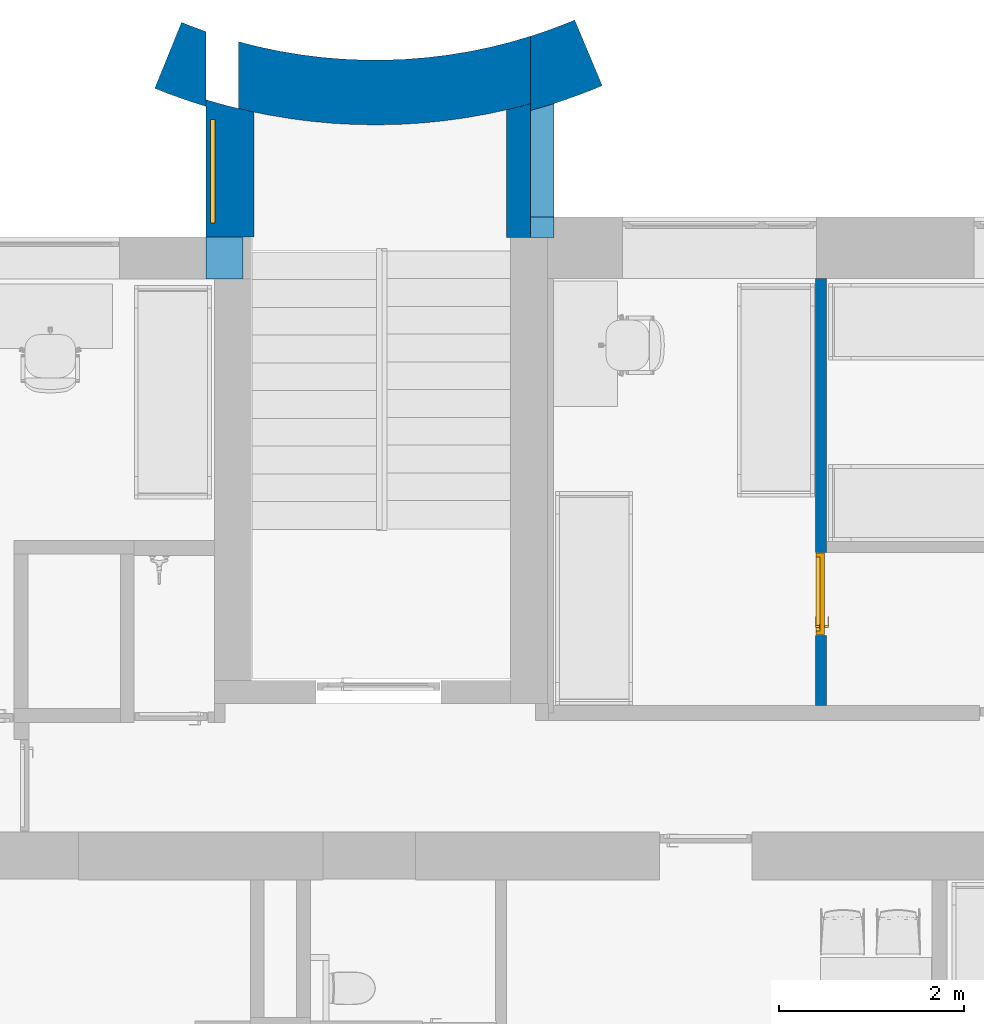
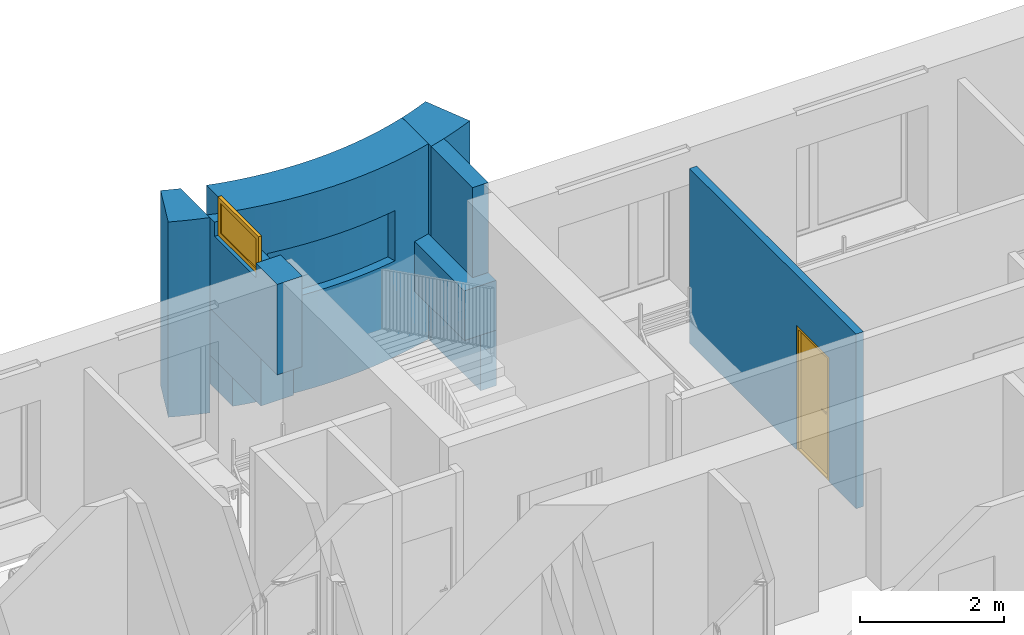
# One storey, part 7 of 48: 9 walls, 1 door, 1 window, 9 openings.
"""IFC2X3 building model written with IfcOpenShell, lengths in millimetres."""

import ifcopenshell
import ifcopenshell.guid

model = None  # the IFC model being written
_history = None  # IfcOwnerHistory: only IFC2X3 demands one
_inside = {}  # id of a spatial element -> (the spatial element, [elements in it])
_under = {}  # id of a project, library or spatial element -> (it, [spatial elements below it])
_declared = {}  # id of a project -> (the project, [libraries it declares])
_typed = {}  # id of a type object -> (the type object, [elements of that type])
_made_of = {}  # id of a material, layer set ... -> (it, [elements and type objects made of it])


def new_model(schema):
    """Start an empty IFC model of exactly this schema.

    Asked for "IFC4X3", IfcOpenShell would pick the latest addendum, in which some entities
    have other attributes; the version numbers below select the first issue.
    IFC2X3 requires an IfcOwnerHistory on every rooted entity: one is made here for all.
    """
    global model, _history
    if schema == "IFC4X3":
        model = ifcopenshell.file(schema_version=(4, 3, 0, 0))
    else:
        model = ifcopenshell.file(schema=schema)
    _inside.clear()
    _under.clear()
    _declared.clear()
    _typed.clear()
    _made_of.clear()
    _history = None
    if model.schema == "IFC2X3":
        org = make("IfcOrganization", Name="unknown")
        user = make(
            "IfcPersonAndOrganization",
            ThePerson=make("IfcPerson", FamilyName="unknown"),
            TheOrganization=org,
        )
        app = make(
            "IfcApplication",
            ApplicationDeveloper=org,
            Version="unknown",
            ApplicationFullName="unknown",
            ApplicationIdentifier="unknown",
        )
        _history = make(
            "IfcOwnerHistory",
            OwningUser=user,
            OwningApplication=app,
            ChangeAction="ADDED",
            CreationDate=0,
        )
    return model


def make(cls, **values):
    """One entity of the class cls with the attributes given. An attribute that is None is left unset."""
    return model.create_entity(
        cls, **{name: value for name, value in values.items() if value is not None}
    )


def entity(cls, *values):
    """Any entity or typed value of the class cls, its attributes in the order of the schema. None: left unset."""
    e = model.create_entity(cls)
    for i, value in enumerate(values):
        if value is not None:
            e[i] = value
    return e


def rooted(cls, **values):
    """An entity with a GlobalId (a new one), such as an element, a storey or a relation."""
    return make(cls, GlobalId=ifcopenshell.guid.new(), OwnerHistory=_history, **values)


def si_unit(unit_type, name, prefix=None):
    """IfcSIUnit, for example si_unit("LENGTHUNIT", "METRE", prefix="MILLI")."""
    return make("IfcSIUnit", UnitType=unit_type, Prefix=prefix, Name=name)


def converted_unit(unit_type, name, factor, base, dimensions=None, offset=None):
    """IfcConversionBasedUnit, such as the inch: factor (a typed value) times the base unit."""
    return make(
        "IfcConversionBasedUnit"
        if offset is None
        else "IfcConversionBasedUnitWithOffset",
        ConversionOffset=offset,
        Dimensions=None
        if dimensions is None
        else entity("IfcDimensionalExponents", *dimensions),
        UnitType=unit_type,
        Name=name,
        ConversionFactor=make(
            "IfcMeasureWithUnit", ValueComponent=factor, UnitComponent=base
        ),
    )


def derived_unit(unit_type, elements):
    """IfcDerivedUnit: a product of units, each with its exponent."""
    return make(
        "IfcDerivedUnit",
        Elements=[
            make("IfcDerivedUnitElement", Unit=unit, Exponent=power)
            for unit, power in elements
        ],
        UnitType=unit_type,
    )


def assignment(units):
    """IfcUnitAssignment: the units of a project."""
    return None if units is None else make("IfcUnitAssignment", Units=units)


def point(xyz):
    """IfcCartesianPoint."""
    return None if xyz is None else make("IfcCartesianPoint", Coordinates=xyz)


def direction(xyz):
    """IfcDirection."""
    return None if xyz is None else make("IfcDirection", DirectionRatios=xyz)


def frame(location, z_axis=None, x_axis=None):
    """IfcAxis2Placement3D, a coordinate frame: its origin and axes. An axis left out is left unset."""
    return make(
        "IfcAxis2Placement3D",
        Location=point(location),
        Axis=direction(z_axis),
        RefDirection=direction(x_axis),
    )


def frame_2d(location, x_axis=None):
    """IfcAxis2Placement2D, a coordinate frame in the plane: its origin and x axis."""
    return make(
        "IfcAxis2Placement2D", Location=point(location), RefDirection=direction(x_axis)
    )


def origin():
    """The frame at (0, 0, 0) with its axes left unset."""
    return frame((0.0, 0.0, 0.0))


def origin_2d_with_axis():
    """The frame at (0, 0) in the plane with the x axis (1, 0) written out."""
    return frame_2d((0.0, 0.0), x_axis=(1.0, 0.0))


def place(relative_to, where):
    """IfcLocalPlacement: puts the frame where relative to a parent placement (None: the world)."""
    return make(
        "IfcLocalPlacement", PlacementRelTo=relative_to, RelativePlacement=where
    )


def context(
    kind, dimensions, precision=None, world=None, true_north=None, identifier=None
):
    """IfcGeometricRepresentationContext, for example the 3D "Model" context."""
    return make(
        "IfcGeometricRepresentationContext",
        ContextIdentifier=identifier,
        ContextType=kind,
        CoordinateSpaceDimension=dimensions,
        Precision=precision,
        WorldCoordinateSystem=world,
        TrueNorth=true_north,
    )


def subcontext(parent, identifier, kind, view, scale=None):
    """IfcGeometricRepresentationSubContext, for example "Body" below "Model"."""
    return make(
        "IfcGeometricRepresentationSubContext",
        ContextIdentifier=identifier,
        ContextType=kind,
        ParentContext=parent,
        TargetScale=scale,
        TargetView=view,
    )


def project(units=None, contexts=None):
    """IfcProject with its units and contexts."""
    return rooted(
        "IfcProject",
        Name="project",
        RepresentationContexts=contexts,
        UnitsInContext=assignment(units),
    )


def spatial(cls, under=None, at=None, **own):
    """A site, building, storey or space (cls), placed at a placement, below another one or the project."""
    s = rooted(cls, ObjectPlacement=at, **own)
    if under is not None:
        _under.setdefault(under.id(), (under, []))[1].append(s)
    return s


def polyline(points):
    """IfcPolyline through the points."""
    return make("IfcPolyline", Points=[point(p) for p in points])


def circle_curve(where, radius):
    """IfcCircle in the frame where."""
    return make("IfcCircle", Position=where, Radius=radius)


def parameter(value):
    """IfcParameterValue: where a trimmed curve begins or ends, as a parameter of its basis curve."""
    return model.create_entity("IfcParameterValue", value)


def trimmed(basis, trim1, trim2, sense, master):
    """IfcTrimmedCurve: the piece of a basis curve between two trims."""
    return make(
        "IfcTrimmedCurve",
        BasisCurve=basis,
        Trim1=trim1,
        Trim2=trim2,
        SenseAgreement=sense,
        MasterRepresentation=master,
    )


def segment(curve, same_sense, transition):
    """IfcCompositeCurveSegment."""
    return make(
        "IfcCompositeCurveSegment",
        Transition=transition,
        SameSense=same_sense,
        ParentCurve=curve,
    )


def composite_curve(segments, self_intersect=None):
    """IfcCompositeCurve: segments joined end to end."""
    return make("IfcCompositeCurve", Segments=segments, SelfIntersect=self_intersect)


def profile(cls, at=None, kind="AREA", **sizes):
    """A parametric profile (cls). Its sizes go by their IFC names, for example OverallWidth=200.0."""
    return make(cls, ProfileType=kind, Position=at, **sizes)


def rectangle(**sizes):
    """IfcRectangleProfileDef."""
    return profile("IfcRectangleProfileDef", **sizes)


def outline(outer, holes=None, kind="AREA"):
    """IfcArbitraryClosedProfileDef: a profile drawn as a closed curve; with holes, ...WithVoids."""
    if holes is None:
        return make("IfcArbitraryClosedProfileDef", ProfileType=kind, OuterCurve=outer)
    return make(
        "IfcArbitraryProfileDefWithVoids",
        ProfileType=kind,
        OuterCurve=outer,
        InnerCurves=holes,
    )


def extrude(swept, where, along, depth):
    """IfcExtrudedAreaSolid: the profile swept, set in the frame where, extruded along a direction by depth."""
    return make(
        "IfcExtrudedAreaSolid",
        SweptArea=swept,
        Position=where,
        ExtrudedDirection=direction(along),
        Depth=depth,
    )


def clip(a, b, op="DIFFERENCE"):
    """IfcBooleanClippingResult: the solid a cut by the half space b."""
    return make(
        "IfcBooleanClippingResult", Operator=op, FirstOperand=a, SecondOperand=b
    )


def bounded_halfspace(plane, agree, where, boundary):
    """IfcPolygonalBoundedHalfSpace: a half space limited to a polygon's prism."""
    return make(
        "IfcPolygonalBoundedHalfSpace",
        BaseSurface=make("IfcPlane", Position=plane),
        AgreementFlag=agree,
        Position=where,
        PolygonalBoundary=boundary,
    )


def faces_of(points, faces, orient=None, outer=None):
    """IfcFace entities. A face is a list of loops; a loop is a list of indices into points, from 0.

    orient and outer hold one flag for each loop. By default every Orientation is true, the
    first loop of a face is its IfcFaceOuterBound and the others are IfcFaceBound.
    """
    made = []
    for i, loops in enumerate(faces):
        bounds = []
        for j, loop in enumerate(loops):
            is_outer = j == 0 if outer is None else outer[i][j]
            bounds.append(
                make(
                    "IfcFaceOuterBound" if is_outer else "IfcFaceBound",
                    Bound=make("IfcPolyLoop", Polygon=[points[k] for k in loop]),
                    Orientation=True if orient is None else orient[i][j],
                )
            )
        made.append(make("IfcFace", Bounds=bounds))
    return made


def faceted_brep(points, faces, orient=None, outer=None, voids=None):
    """IfcFacetedBrep: a solid bounded by flat faces; with voids (closed shells), ...WithVoids."""
    shared = [point(p) for p in points]
    hull = make("IfcClosedShell", CfsFaces=faces_of(shared, faces, orient, outer))
    if voids is None:
        return make("IfcFacetedBrep", Outer=hull)
    return make(
        "IfcFacetedBrepWithVoids",
        Outer=hull,
        Voids=[
            make(cls, CfsFaces=faces_of(shared, fs, o, b)) for cls, fs, o, b in voids
        ],
    )


def shape(context_of_items, identifier, shape_type, items):
    """IfcShapeRepresentation: the items that make up one representation, for example the "Body"."""
    return make(
        "IfcShapeRepresentation",
        ContextOfItems=context_of_items,
        RepresentationIdentifier=identifier,
        RepresentationType=shape_type,
        Items=items,
    )


def source(mapping_origin, context_of_items, identifier, shape_type, items):
    """IfcRepresentationMap: a shape defined once, which mapped items show again and again."""
    return make(
        "IfcRepresentationMap",
        MappingOrigin=mapping_origin,
        MappedRepresentation=shape(context_of_items, identifier, shape_type, items),
    )


def transform(
    local_origin,
    x_axis=None,
    y_axis=None,
    z_axis=None,
    scale=None,
    scale2=None,
    scale3=None,
    uniform=True,
):
    """IfcCartesianTransformationOperator3D, or its non-uniform kind. x_axis, y_axis, z_axis: its Axis1, 2, 3."""
    if uniform:
        return make(
            "IfcCartesianTransformationOperator3D",
            Axis1=direction(x_axis),
            Axis2=direction(y_axis),
            LocalOrigin=point(local_origin),
            Scale=scale,
            Axis3=direction(z_axis),
        )
    return make(
        "IfcCartesianTransformationOperator3DnonUniform",
        Axis1=direction(x_axis),
        Axis2=direction(y_axis),
        LocalOrigin=point(local_origin),
        Scale=scale,
        Axis3=direction(z_axis),
        Scale2=scale2,
        Scale3=scale3,
    )


def mapped(mapping_source, mapping_target):
    """IfcMappedItem: shows the shape of a source again, moved by a transform."""
    return make(
        "IfcMappedItem", MappingSource=mapping_source, MappingTarget=mapping_target
    )


def material(Name=None, Category=None):
    """IfcMaterial."""
    return make("IfcMaterial", Name=Name, Category=Category)


def material_list(materials):
    """IfcMaterialList."""
    return make("IfcMaterialList", Materials=materials)


def layer(
    of_material, thickness, ventilated=None, Name=None, Category=None, Priority=None
):
    """IfcMaterialLayer: one layer of a wall or slab, of a material (None: an air gap)."""
    return make(
        "IfcMaterialLayer",
        Material=of_material,
        LayerThickness=thickness,
        IsVentilated=ventilated,
        Name=Name,
        Category=Category,
        Priority=Priority,
    )


def layer_set(layers, Name=None):
    """IfcMaterialLayerSet."""
    return make("IfcMaterialLayerSet", MaterialLayers=layers, LayerSetName=Name)


def layer_usage(for_layer_set, set_direction, sense, offset, extent=None):
    """IfcMaterialLayerSetUsage: how a layer set lies in its element."""
    return make(
        "IfcMaterialLayerSetUsage",
        ForLayerSet=for_layer_set,
        LayerSetDirection=set_direction,
        DirectionSense=sense,
        OffsetFromReferenceLine=offset,
        ReferenceExtent=extent,
    )


def made_of(thing, what):
    """Note that an element or type object is made of a material, layer set ...; save() writes the relation."""
    if what is not None:
        _made_of.setdefault(what.id(), (what, []))[1].append(thing)
    return thing


def type_object(cls, material=None, **own):
    """A type object (cls), such as IfcWallType, which elements share."""
    return made_of(rooted(cls, **own), material)


def type_shapes(of_type, sources):
    """Give a type object the sources (RepresentationMaps) that its elements show as mapped items."""
    of_type.RepresentationMaps = sources


def element(
    cls,
    number,
    at=None,
    inside=None,
    cuts=None,
    type_object=None,
    material=None,
    context=None,
    identifier="Body",
    shape_type=None,
    held_by="IfcProductDefinitionShape",
    body=None,
    shapes=None,
    **own,
):
    """One element of the class cls, such as IfcWall. Its Tag is "e" and its number.

    at: its placement. inside: the storey or other place that contains it. cuts: it is an
    opening in that element (IfcRelVoidsElement). A single representation is given by context,
    identifier, shape_type and body (its items); several are given by shapes. held_by: the class
    of the entity that holds the representations. save() writes the other relations.
    """
    e = rooted(cls, Tag="e%d" % number, ObjectPlacement=at, **own)
    if body is not None:
        shapes = [shape(context, identifier, shape_type, body)]
    if shapes is not None:
        e.Representation = make(held_by, Representations=shapes)
    if inside is not None:
        _inside.setdefault(inside.id(), (inside, []))[1].append(e)
    if cuts is not None:
        rooted(
            "IfcRelVoidsElement", RelatingBuildingElement=cuts, RelatedOpeningElement=e
        )
    if type_object is not None:
        _typed.setdefault(type_object.id(), (type_object, []))[1].append(e)
    return made_of(e, material)


def fill(opening, filler):
    """IfcRelFillsElement: the door or window that sits in an opening."""
    return rooted(
        "IfcRelFillsElement",
        RelatingOpeningElement=opening,
        RelatedBuildingElement=filler,
    )


def aggregate(whole, parts):
    """IfcRelAggregates: a whole, such as a stair, and the parts it consists of."""
    return rooted("IfcRelAggregates", RelatingObject=whole, RelatedObjects=parts)


def save(model, path):
    """Write the relations noted so far, then the file.

    IfcRelAggregates (storeys below a building ...), IfcRelContainedInSpatialStructure (elements
    in a storey), IfcRelDefinesByType, IfcRelAssociatesMaterial and IfcRelDeclares: one each for
    every whole, place, type object, material and project.
    """
    for whole, parts in _under.values():
        aggregate(whole, parts)
    for where, things in _inside.values():
        rooted(
            "IfcRelContainedInSpatialStructure",
            RelatedElements=things,
            RelatingStructure=where,
        )
    for kind, things in _typed.values():
        rooted("IfcRelDefinesByType", RelatedObjects=things, RelatingType=kind)
    for what, things in _made_of.values():
        rooted("IfcRelAssociatesMaterial", RelatedObjects=things, RelatingMaterial=what)
    for by, libraries in _declared.values():
        rooted("IfcRelDeclares", RelatingContext=by, RelatedDefinitions=libraries)
    model.write(path)


model = new_model("IFC2X3")

# Units and contexts
model_context = context("Model", 3, precision=0.01, world=origin(), true_north=direction((6.12303176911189e-17, 1.0)))
body_context = subcontext(model_context, "Body", "Model", "MODEL_VIEW")
ifc_project = project(units=[si_unit("LENGTHUNIT", "METRE", prefix="MILLI"), si_unit("AREAUNIT", "SQUARE_METRE"), si_unit("VOLUMEUNIT", "CUBIC_METRE"), converted_unit("PLANEANGLEUNIT", "DEGREE", entity("IfcRatioMeasure", 0.0174532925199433), si_unit("PLANEANGLEUNIT", "RADIAN"), dimensions=[0, 0, 0, 0, 0, 0, 0]), si_unit("MASSUNIT", "GRAM", prefix="KILO"), derived_unit("MASSDENSITYUNIT", [(si_unit("MASSUNIT", "GRAM", prefix="KILO"), 1), (si_unit("LENGTHUNIT", "METRE"), -3)]), si_unit("TIMEUNIT", "SECOND"), si_unit("FREQUENCYUNIT", "HERTZ"), si_unit("THERMODYNAMICTEMPERATUREUNIT", "DEGREE_CELSIUS"), derived_unit("THERMALTRANSMITTANCEUNIT", [(si_unit("MASSUNIT", "GRAM", prefix="KILO"), 1), (si_unit("THERMODYNAMICTEMPERATUREUNIT", "KELVIN"), -1), (si_unit("TIMEUNIT", "SECOND"), -3)]), derived_unit("VOLUMETRICFLOWRATEUNIT", [(si_unit("LENGTHUNIT", "METRE"), 3), (si_unit("TIMEUNIT", "SECOND"), -1)]), si_unit("ELECTRICCURRENTUNIT", "AMPERE"), si_unit("ELECTRICVOLTAGEUNIT", "VOLT"), si_unit("POWERUNIT", "WATT"), si_unit("FORCEUNIT", "NEWTON", prefix="KILO"), si_unit("ILLUMINANCEUNIT", "LUX"), si_unit("LUMINOUSFLUXUNIT", "LUMEN"), si_unit("LUMINOUSINTENSITYUNIT", "CANDELA"), derived_unit("USERDEFINED", [(si_unit("MASSUNIT", "GRAM", prefix="KILO"), -1), (si_unit("LENGTHUNIT", "METRE"), -2), (si_unit("TIMEUNIT", "SECOND"), 3), (si_unit("LUMINOUSFLUXUNIT", "LUMEN"), 1)]), derived_unit("LINEARVELOCITYUNIT", [(si_unit("LENGTHUNIT", "METRE"), 1), (si_unit("TIMEUNIT", "SECOND"), -1)]), si_unit("PRESSUREUNIT", "PASCAL"), derived_unit("USERDEFINED", [(si_unit("LENGTHUNIT", "METRE"), -2), (si_unit("MASSUNIT", "GRAM", prefix="KILO"), 1), (si_unit("TIMEUNIT", "SECOND"), -2)]), derived_unit("LINEARFORCEUNIT", [(si_unit("MASSUNIT", "GRAM", prefix="KILO"), 1), (si_unit("LENGTHUNIT", "METRE"), 1), (si_unit("TIMEUNIT", "SECOND"), -2), (si_unit("LENGTHUNIT", "METRE"), -1)]), derived_unit("PLANARFORCEUNIT", [(si_unit("MASSUNIT", "GRAM", prefix="KILO"), 1), (si_unit("LENGTHUNIT", "METRE"), 1), (si_unit("TIMEUNIT", "SECOND"), -2), (si_unit("LENGTHUNIT", "METRE"), -2)])], contexts=[model_context])

# Site, building, storey
site_placement = place(None, origin())
site = spatial("IfcSite", under=ifc_project, at=site_placement, Name="Default", CompositionType="ELEMENT")
building_placement = place(site_placement, origin())
building = spatial("IfcBuilding", under=site, at=building_placement, Name="SMA ARH", CompositionType="ELEMENT")
storey_placement = place(building_placement, frame((0.0, 0.0, 3300.0)))
storey = spatial("IfcBuildingStorey", under=building, at=storey_placement, Name="2 Korrus", CompositionType="ELEMENT", Elevation=3299.99999999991)

# Wall, openings
ifc_material_1 = material(Name="_ol.olev sein")
ifc_layer_1 = layer(ifc_material_1, 700.0)
ifc_layer_set_1 = layer_set([ifc_layer_1], Name="Basic Wall:Generic - 700mm")
ifc_layer_usage_1 = layer_usage(ifc_layer_set_1, "AXIS2", "POSITIVE", -350.0)
wall_type_1 = type_object("IfcWallType", Name="Basic Wall:Generic - 700mm", PredefinedType="STANDARD", material=ifc_layer_set_1)
wall_1_placement = place(storey_placement, frame((11925.5628973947, 14785.6894380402, 0.0)))
wall_1 = element("IfcWallStandardCase", 1, at=wall_1_placement, inside=storey, type_object=wall_type_1, material=ifc_layer_usage_1, Name="Basic Wall:Generic - 700mm", ObjectType="Basic Wall:Generic - 700mm", context=body_context, shape_type="Clipping", body=[
    clip(extrude(outline(polyline([(-3265.56289739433, -448.517124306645), (-3108.52980514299, -484.530908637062), (-2950.64808198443, -516.493261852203), (-2714.63304281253, -556.475508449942), (-2477.26655068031, -587.419269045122), (-2238.89255319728, -609.28014908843), (-1999.85823823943, -622.02636836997), (-1760.51179631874, -625.639394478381), (-1521.20187033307, -620.113976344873), (-1282.2770500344, -605.458151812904), (-1044.08536657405, -581.693236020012), (-806.973787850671, -548.853790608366), (-571.287715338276, -506.987573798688), (-337.370543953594, -456.155485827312), (-105.562897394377, -396.431419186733), (-105.562897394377, 333.701175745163), (-325.230452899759, 269.147004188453), (-547.363207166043, 213.675217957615), (-771.587638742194, 167.378936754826), (-997.524518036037, 130.336398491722), (-1224.79228052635, 102.610085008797), (-1453.0071216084, 84.2467659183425), (-1681.7836424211, 75.2774201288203), (-1910.73549833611, 75.7171838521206), (-2139.476049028, 85.5653251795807), (-2367.61900904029, 104.805245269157), (-2594.77909781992, 133.404506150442), (-2820.56917062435, 171.314347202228), (-3044.12517481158, 218.358018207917), (-3265.56289739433, 274.528851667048), (-3265.56289739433, -448.517124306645)])), origin(), (0.0, 0.0, 1.0), 3299.99999999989), bounded_halfspace(frame((-105.562897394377, 333.701175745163, 3300.0), z_axis=(-1.0, 0.0, 0.0), x_axis=(0.0, -1.0, 0.0)), True, frame((-105.562897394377, 333.701175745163, 3300.0), z_axis=(-1.0, 0.0, 0.0), x_axis=(0.0, -1.0, 0.0)), polyline([(0.0, 0.0), (0.0, -3300.0), (730.132594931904, -3300.0), (730.132594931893, 0.0), (0.0, 0.0)]))),
])
opening_1_placement = place(wall_1_placement, origin())
element("IfcOpeningElement", 2, at=opening_1_placement, cuts=wall_1, Name="Basic Wall:Generic - 700mm", ObjectType="Recess", context=body_context, shape_type="SweptSolid", body=[
    extrude(rectangle(XDim=349.999999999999, YDim=1140.0, at=frame_2d((-5.40012479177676e-13, 0.0), x_axis=(1.0, 0.0))), frame((-3440.56289739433, -1045.6894380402, -300.0)), (0.0, 0.0, 1.0), 670.0),
])
opening_2_placement = place(wall_1_placement, origin())
element("IfcOpeningElement", 3, at=opening_2_placement, cuts=wall_1, Name="Basic Wall:Generic - 700mm", ObjectType="Recess", context=body_context, shape_type="SweptSolid", body=[
    extrude(rectangle(XDim=400.0, YDim=1140.0, at=origin_2d_with_axis()), frame((-3415.56289739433, -1125.6894380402, 3060.0)), (0.0, 0.0, 1.0), 670.0),
])
opening_3_placement = place(wall_1_placement, origin())
element("IfcOpeningElement", 4, at=opening_3_placement, cuts=wall_1, Name="Basic Wall:Generic - 700mm", ObjectType="Opening", context=body_context, shape_type="SweptSolid", body=[
    extrude(outline(composite_curve([segment(trimmed(circle_curve(frame_2d((-47.0607839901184, 6119.12473077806), x_axis=(1.0, 0.0)), 6270.13888888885), [parameter(261.038833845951)], [parameter(279.775431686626)], True, "PARAMETER"), True, "CONTINUOUS"), segment(polyline([(1017.52692784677, -59.9767160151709), (981.283991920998, 75.283762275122)]), True, "CONTINUOUS"), segment(trimmed(circle_curve(frame_2d((-47.0607839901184, 6159.12473077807), x_axis=(1.0, 0.0)), 6170.13888888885), [parameter(261.349588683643)], [parameter(279.593957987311)], True, "PARAMETER"), False, "CONTINUOUS"), segment(polyline([(-975.081981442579, 59.1746846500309), (-1023.72893832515, -74.4817309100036)]), True, "CONTINUOUS")], self_intersect=False)), frame((-1738.50211340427, -474.675279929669, 1620.0)), (0.0, 0.0, 1.0), 850.000000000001),
])

# Wall
ifc_layer_2 = layer(ifc_material_1, 520.0)
ifc_layer_set_2 = layer_set([ifc_layer_2], Name="Basic Wall:Generic - 520mm")
ifc_layer_usage_2 = layer_usage(ifc_layer_set_2, "AXIS2", "POSITIVE", -260.0)
wall_type_2 = type_object("IfcWallType", Name="Basic Wall:Generic - 520mm", PredefinedType="STANDARD", material=ifc_layer_set_2)
wall_2_placement = place(storey_placement, frame((8570.0, 14432.9944279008, 972.525989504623), z_axis=(0.0, 0.0, 1.0), x_axis=(0.0, -1.0, 0.0)))
element("IfcWallStandardCase", 5, at=wall_2_placement, inside=storey, type_object=wall_type_2, material=ifc_layer_usage_2, Name="Basic Wall:Generic - 520mm", ObjectType="Basic Wall:Generic - 520mm", context=body_context, shape_type="SweptSolid", body=[
    extrude(outline(composite_curve([segment(polyline([(1486.79138500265, -260.0), (1486.79138500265, 90.0)]), True, "CONTINUOUS"), segment(polyline([(1486.79138500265, 90.0), (1486.79138500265, 260.0)]), True, "CONTINUOUS"), segment(polyline([(1486.79138500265, 260.0), (134.620512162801, 260.0)]), True, "CONTINUOUS"), segment(trimmed(circle_curve(frame_2d((-5997.14446098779, 1570.0), x_axis=(0.0, 1.0)), 6270.13888888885), [parameter(256.347098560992)], [parameter(257.940533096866)], True, "PARAMETER"), False, "CONTINUOUS"), segment(trimmed(circle_curve(frame_2d((-5997.14446098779, 1570.0), x_axis=(0.0, 1.0)), 6270.13888888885), [parameter(253.030681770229)], [parameter(256.347098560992)], True, "PARAMETER"), False, "CONTINUOUS"), segment(polyline([(0.0, -260.0), (1486.79138500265, -260.0)]), True, "CONTINUOUS")], self_intersect=False)), origin(), (0.0, 0.0, 1.0), 798.567297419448),
])

# Wall, opening, window
ifc_layer_3 = layer(ifc_material_1, 400.0)
ifc_layer_set_3 = layer_set([ifc_layer_3], Name="Basic Wall:Generic - 400mm")
ifc_layer_usage_3 = layer_usage(ifc_layer_set_3, "AXIS2", "POSITIVE", -200.0)
wall_type_3 = type_object("IfcWallType", Name="Basic Wall:Generic - 400mm", PredefinedType="STANDARD", material=ifc_layer_set_3)
wall_3_placement = place(storey_placement, frame((8510.0, 14432.9944279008, 1771.09328692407), z_axis=(0.0, 0.0, 1.0), x_axis=(0.0, -1.0, 0.0)))
wall_3 = element("IfcWallStandardCase", 6, at=wall_3_placement, inside=storey, type_object=wall_type_3, material=ifc_layer_usage_3, Name="Basic Wall:Generic - 400mm", ObjectType="Basic Wall:Generic - 400mm", context=body_context, shape_type="SweptSolid", body=[
    extrude(outline(composite_curve([segment(polyline([(1936.79138500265, -200.0), (1936.79138500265, 200.0)]), True, "CONTINUOUS"), segment(polyline([(1936.79138500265, 200.0), (107.750434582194, 200.0)]), True, "CONTINUOUS"), segment(trimmed(circle_curve(frame_2d((-5997.14446098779, 1630.0), x_axis=(0.0, 1.0)), 6270.13888888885), [parameter(253.030681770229)], [parameter(256.816815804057)], True, "PARAMETER"), False, "CONTINUOUS"), segment(polyline([(0.0, -200.0), (1486.79138500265, -200.0)]), True, "CONTINUOUS"), segment(polyline([(1486.79138500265, -200.0), (1936.79138500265, -200.0)]), True, "CONTINUOUS")], self_intersect=False)), origin(), (0.0, 0.0, 1.0), 1528.90671307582),
])
opening_4_placement = place(wall_3_placement, frame((1342.9944279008, 200.0, 1288.90671307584)))
opening_4 = element("IfcOpeningElement", 7, at=opening_4_placement, cuts=wall_3, Name="SMA_W1, 1-jaotus1:A-03_1140x670:1", ObjectType="Opening", context=body_context, shape_type="SweptSolid", body=[
    extrude(rectangle(XDim=670.0, YDim=1140.0, at=frame_2d((335.0, 570.000000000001), x_axis=(1.0, 0.0))), frame((0.0, 0.0, 0.0), z_axis=(0.0, -1.0, 0.0), x_axis=(0.0, 0.0, 1.0)), (0.0, 0.0, 1.0), 400.0),
])
ifc_material_2 = material(Name="Default")
ifc_material_3 = material(Name="EST. Klaas. 3x. Default")
ifc_material_list_1 = material_list([ifc_material_2, ifc_material_3])
ifc_material_4 = material(Name="<Unnamed>")
ifc_material_list_2 = material_list([ifc_material_4, ifc_material_4, ifc_material_3, ifc_material_2, ifc_material_2])
window_style = type_object("IfcWindowStyle", Name="SMA_W1, 1-jaotus1:A-03_1140x670", ConstructionType="NOTDEFINED", OperationType="NOTDEFINED", ParameterTakesPrecedence=False, Sizeable=False, material=ifc_material_list_2)
shared_shape_1 = source(origin(), body_context, "Body", "SweptSolid", [
    extrude(outline(polyline([(-325.0, -560.0), (325.0, -560.0), (325.0, 560.0), (-325.0, 560.0), (-325.0, -560.0)]), holes=[polyline([(-255.0, -490.0), (-255.0, 490.0), (255.0, 490.0), (255.0, -490.0), (-255.0, -490.0)])]), frame((570.0, 300.0, 335.0), z_axis=(0.0, 1.0, 0.0), x_axis=(0.0, 0.0, 1.0)), (0.0, 0.0, 1.0), 50.0),
    extrude(rectangle(XDim=20.0, YDim=980.0, at=frame_2d((-7.99360577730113e-15, -2.8421709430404e-14), x_axis=(1.0, 0.0))), frame((570.0, 325.0, 80.0), z_axis=(0.0, 0.0, 1.0), x_axis=(0.0, 1.0, 0.0)), (0.0, 0.0, 1.0), 510.0),
])
type_shapes(window_style, [shared_shape_1])
window_placement = place(opening_4_placement, frame((0.0, 0.0, 0.0), z_axis=(0.0, 0.0, 1.0), x_axis=(-1.0, 0.0, 0.0)))
window = element("IfcWindow", 8, at=window_placement, inside=storey, type_object=window_style, material=ifc_material_list_1, Name="SMA_W1, 1-jaotus1:A-03_1140x670", ObjectType="SMA_W1, 1-jaotus1:A-03_1140x670", OverallHeight=670.0, OverallWidth=1140.0, context=body_context, shape_type="MappedRepresentation", body=[
    mapped(shared_shape_1, transform((0.0, 0.0, 0.0), scale=1.0)),
])
fill(opening_4, window)

# Wall, openings
ifc_layer_4 = layer(ifc_material_1, 770.0)
ifc_layer_set_4 = layer_set([ifc_layer_4], Name="Basic Wall:Generic - 770mm")
ifc_layer_usage_4 = layer_usage(ifc_layer_set_4, "AXIS2", "POSITIVE", -385.0)
wall_type_4 = type_object("IfcWallType", Name="Basic Wall:Generic - 770mm", PredefinedType="STANDARD", material=ifc_layer_set_4)
wall_4_placement = place(storey_placement, frame((12444.4838887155, 14938.9611288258, 0.0)))
wall_4 = element("IfcWallStandardCase", 9, at=wall_4_placement, inside=storey, type_object=wall_type_4, material=ifc_layer_usage_4, Name="Basic Wall:Generic - 770mm", ObjectType="Basic Wall:Generic - 770mm", context=body_context, shape_type="SweptSolid", body=[
    extrude(outline(composite_curve([segment(trimmed(circle_curve(frame_2d((-2304.48388871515, 5491.17776006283), x_axis=(1.0, 0.0)), 5570.13888888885), [parameter(287.554225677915)], [parameter(292.766343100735)], True, "PARAMETER"), False, "CONTINUOUS"), segment(polyline([(-624.483888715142, 180.429484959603), (-624.483888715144, -549.703109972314)]), True, "CONTINUOUS"), segment(polyline([(-624.483888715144, -549.703109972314), (-624.483888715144, -622.328691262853)]), True, "CONTINUOUS"), segment(trimmed(circle_curve(frame_2d((-2304.48388871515, 5491.17776006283), x_axis=(1.0, 0.0)), 6340.13888888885), [parameter(285.365670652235)], [parameter(287.722655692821)], True, "PARAMETER"), True, "CONTINUOUS"), segment(trimmed(circle_curve(frame_2d((-2304.48388871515, 5491.17776006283), x_axis=(1.0, 0.0)), 6340.13888888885), [parameter(287.722655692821)], [parameter(292.766343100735)], True, "PARAMETER"), True, "CONTINUOUS"), segment(polyline([(148.984988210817, -355.004891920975), (-148.984988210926, 355.004891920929)]), True, "CONTINUOUS")], self_intersect=False)), origin(), (0.0, 0.0, 1.0), 3299.99999999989),
])
opening_5_placement = place(wall_4_placement, origin())
element("IfcOpeningElement", 10, at=opening_5_placement, cuts=wall_4, Name="Basic Wall:Generic - 770mm", ObjectType="Recess", context=body_context, shape_type="SweptSolid", body=[
    extrude(rectangle(XDim=349.999999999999, YDim=1140.0, at=frame_2d((-5.40012479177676e-13, 0.0), x_axis=(1.0, 0.0))), frame((-3959.48388871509, -1198.96112882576, -300.0)), (0.0, 0.0, 1.0), 670.0),
])
opening_6_placement = place(wall_4_placement, origin())
element("IfcOpeningElement", 11, at=opening_6_placement, cuts=wall_4, Name="Basic Wall:Generic - 770mm", ObjectType="Recess", context=body_context, shape_type="SweptSolid", body=[
    extrude(rectangle(XDim=400.0, YDim=1140.0, at=origin_2d_with_axis()), frame((-3934.48388871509, -1278.96112882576, 3060.0)), (0.0, 0.0, 1.0), 670.0),
])

ifc_layer_usage_5 = layer_usage(ifc_layer_set_4, "AXIS2", "POSITIVE", -385.0)
wall_5_placement = place(storey_placement, frame((8796.83563714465, 14628.4504553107, 0.0)))
wall_5 = element("IfcWallStandardCase", 12, at=wall_5_placement, inside=storey, type_object=wall_type_4, material=ifc_layer_usage_5, Name="Basic Wall:Generic - 770mm", ObjectType="Basic Wall:Generic - 770mm", context=body_context, shape_type="SweptSolid", body=[
    extrude(outline(composite_curve([segment(polyline([(-486.835637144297, -268.604897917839), (-486.83563714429, 540.742963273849)]), True, "CONTINUOUS"), segment(trimmed(circle_curve(frame_2d((1343.16436285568, 5801.68843357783), x_axis=(1.0, 0.0)), 5570.13888888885), [parameter(247.920826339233)], [parameter(250.819962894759)], True, "PARAMETER"), False, "CONTINUOUS"), segment(polyline([(-750.580974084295, 640.03388241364), (-1040.01431526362, -73.4984160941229)]), True, "CONTINUOUS"), segment(trimmed(circle_curve(frame_2d((1343.16436285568, 5801.68843357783), x_axis=(1.0, 0.0)), 6340.13888888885), [parameter(247.920826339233)], [parameter(253.223614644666)], True, "PARAMETER"), True, "CONTINUOUS")], self_intersect=False)), origin(), (0.0, 0.0, 1.0), 3299.99999999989),
])
opening_7_placement = place(wall_5_placement, origin())
element("IfcOpeningElement", 13, at=opening_7_placement, cuts=wall_5, Name="Basic Wall:Generic - 770mm", ObjectType="Recess", context=body_context, shape_type="SweptSolid", body=[
    extrude(rectangle(XDim=349.999999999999, YDim=1140.0, at=frame_2d((-5.40012479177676e-13, 0.0), x_axis=(1.0, 0.0))), frame((-311.83563714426, -888.450455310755, -300.0)), (0.0, 0.0, 1.0), 670.0),
])
opening_8_placement = place(wall_5_placement, origin())
element("IfcOpeningElement", 14, at=opening_8_placement, cuts=wall_5, Name="Basic Wall:Generic - 770mm", ObjectType="Recess", context=body_context, shape_type="SweptSolid", body=[
    extrude(rectangle(XDim=400.0, YDim=1140.0, at=origin_2d_with_axis()), frame((-286.83563714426, -968.450455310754, 3060.0)), (0.0, 0.0, 1.0), 670.0),
])

# Walls
ifc_layer_5 = layer(ifc_material_1, 510.0)
ifc_layer_set_5 = layer_set([ifc_layer_5], Name="Basic Wall:Generic - 510mm")
ifc_layer_usage_6 = layer_usage(ifc_layer_set_5, "AXIS2", "POSITIVE", -255.0)
wall_type_5 = type_object("IfcWallType", Name="Basic Wall:Generic - 510mm", PredefinedType="STANDARD", material=ifc_layer_set_5)
wall_6_placement = place(storey_placement, frame((11815.0, 12945.0, 940.0), z_axis=(0.0, 0.0, 1.0), x_axis=(0.0, 1.0, 0.0)))
element("IfcWallStandardCase", 15, at=wall_6_placement, inside=storey, type_object=wall_type_5, material=ifc_layer_usage_6, Name="Basic Wall:Generic - 510mm", ObjectType="Basic Wall:Generic - 510mm", context=body_context, shape_type="SweptSolid", body=[
    extrude(outline(composite_curve([segment(trimmed(circle_curve(frame_2d((7485.13888888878, 1675.0), x_axis=(0.0, -1.0)), 6270.13888888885), [parameter(283.089349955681)], [parameter(287.927190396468)], True, "PARAMETER"), False, "CONTINUOUS"), segment(polyline([(1377.91024686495, 255.0), (0.0, 255.0)]), True, "CONTINUOUS"), segment(polyline([(0.0, 255.0), (0.0, -5.0)]), True, "CONTINUOUS"), segment(polyline([(0.0, -5.0), (0.0, -185.0)]), True, "CONTINUOUS"), segment(polyline([(0.0, -185.0), (0.0, -255.0)]), True, "CONTINUOUS"), segment(polyline([(0.0, -255.0), (220.0, -255.0)]), True, "CONTINUOUS"), segment(polyline([(220.0, -255.0), (1445.89546521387, -255.0)]), True, "CONTINUOUS"), segment(polyline([(1445.89546521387, -255.0), (1519.42504342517, -255.0)]), True, "CONTINUOUS")], self_intersect=False)), origin(), (0.0, 0.0, 1.0), 840.0),
])
ifc_layer_6 = layer(ifc_material_1, 250.0)
ifc_layer_set_6 = layer_set([ifc_layer_6], Name="Basic Wall:Generic - 250mm")
ifc_layer_usage_7 = layer_usage(ifc_layer_set_6, "AXIS2", "POSITIVE", -125.0)
wall_type_6 = type_object("IfcWallType", Name="Basic Wall:Generic - 250mm", PredefinedType="STANDARD", material=ifc_layer_set_6)
wall_7_placement = place(storey_placement, frame((11945.0, 12945.0, 0.0), z_axis=(0.0, 0.0, 1.0), x_axis=(0.0, 1.0, 0.0)))
element("IfcWallStandardCase", 16, at=wall_7_placement, inside=storey, type_object=wall_type_6, material=ifc_layer_usage_7, Name="Basic Wall:Generic - 250mm", ObjectType="Basic Wall:Generic - 250mm", context=body_context, shape_type="SweptSolid", body=[
    extrude(outline(composite_curve([segment(trimmed(circle_curve(frame_2d((7485.13888888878, 1805.0), x_axis=(0.0, -1.0)), 6340.13888888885), [parameter(285.365670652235)], [parameter(287.72265569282)], True, "PARAMETER"), False, "CONTINUOUS"), segment(polyline([(1371.6324375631, 125.0), (173.258096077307, 125.0)]), True, "CONTINUOUS"), segment(polyline([(173.258096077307, 125.0), (0.0, 125.0)]), True, "CONTINUOUS"), segment(polyline([(0.0, 125.0), (0.0, -125.0)]), True, "CONTINUOUS"), segment(polyline([(0.0, -125.0), (173.258096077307, -125.0)]), True, "CONTINUOUS"), segment(polyline([(173.258096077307, -125.0), (1445.89546521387, -125.0)]), True, "CONTINUOUS")], self_intersect=False)), origin(), (0.0, 0.0, 1.0), 940.000000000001),
])
ifc_layer_usage_8 = layer_usage(ifc_layer_set_6, "AXIS2", "POSITIVE", -125.0)
wall_8_placement = place(storey_placement, frame((11945.0, 13165.0, 1780.0), z_axis=(0.0, 0.0, 1.0), x_axis=(0.0, 1.0, 0.0)))
element("IfcWallStandardCase", 17, at=wall_8_placement, inside=storey, type_object=wall_type_6, material=ifc_layer_usage_8, Name="Basic Wall:Generic - 250mm", ObjectType="Basic Wall:Generic - 250mm", context=body_context, shape_type="SweptSolid", body=[
    extrude(outline(composite_curve([segment(polyline([(114.0, -750.389884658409), (114.0, 475.505580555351)]), True, "CONTINUOUS"), segment(polyline([(114.0, 475.505580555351), (44.0, 475.50558055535)]), True, "CONTINUOUS"), segment(polyline([(44.0, 475.50558055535), (-136.0, 475.50558055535)]), True, "CONTINUOUS"), segment(polyline([(-136.0, 475.50558055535), (-136.0, -676.126857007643)]), True, "CONTINUOUS"), segment(trimmed(circle_curve(frame_2d((-1816.0, -6789.63330833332), x_axis=(1.0, 0.0)), 6340.13888888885), [parameter(72.2773443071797)], [parameter(74.6343293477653)], True, "PARAMETER"), False, "CONTINUOUS")], self_intersect=False)), frame((475.50558055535, -11.0, 0.0), z_axis=(0.0, 0.0, -1.0), x_axis=(0.0, -1.0, 0.0)), (0.0, 0.0, -1.0), 1519.99999999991),
])

# Wall, opening, door
ifc_material_5 = material(Name="EST. Ehitusplaat. Kipsplaat")
ifc_layer_7 = layer(ifc_material_5, 12.5)
ifc_layer_8 = layer(ifc_material_5, 12.5)
ifc_material_6 = material(Name="EST. Soojustus. Mineraalvill. Default")
ifc_layer_9 = layer(ifc_material_6, 66.0)
ifc_layer_10 = layer(ifc_material_5, 12.5)
ifc_layer_11 = layer(ifc_material_5, 12.5)
ifc_layer_set_7 = layer_set([ifc_layer_7, ifc_layer_8, ifc_layer_9, ifc_layer_10, ifc_layer_11], Name="Basic Wall:SS-05_Kips, 66mm metallkarkass")
ifc_layer_usage_9 = layer_usage(ifc_layer_set_7, "AXIS2", "NEGATIVE", 58.0)
wall_type_7 = type_object("IfcWallType", Name="Basic Wall:SS-05_Kips, 66mm metallkarkass", PredefinedType="STANDARD", material=ifc_layer_set_7)
wall_9_placement = place(storey_placement, frame((14957.5000000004, 12500.0, 0.0), z_axis=(0.0, 0.0, 1.0), x_axis=(0.0, -1.0, 0.0)))
wall_9 = element("IfcWallStandardCase", 18, at=wall_9_placement, inside=storey, type_object=wall_type_7, material=ifc_layer_usage_9, Name="Basic Wall:SS-05_Kips, 66mm metallkarkass", ObjectType="Basic Wall:SS-05_Kips, 66mm metallkarkass", context=body_context, shape_type="SweptSolid", body=[
    extrude(rectangle(XDim=4617.49999999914, YDim=116.0, at=frame_2d((2308.74999999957, -1.17239551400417e-13), x_axis=(-1.0, 0.0))), origin(), (0.0, 0.0, 1.0), 2949.99999999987),
])
opening_9_placement = place(wall_9_placement, frame((2959.0, -58.0, 0.0)))
opening_9 = element("IfcOpeningElement", 19, at=opening_9_placement, cuts=wall_9, Name="SMA_D01, 1-poolne:SU-P-05 - 900x2100 TUBA:1", ObjectType="Opening", context=body_context, shape_type="SweptSolid", body=[
    extrude(rectangle(XDim=2099.99999999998, YDim=900.0, at=frame_2d((1049.99999999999, 450.0), x_axis=(1.0, 0.0))), frame((0.0, 0.0, 0.0), z_axis=(0.0, 1.0, 0.0), x_axis=(0.0, 0.0, 1.0)), (0.0, 0.0, 1.0), 116.0),
])
ifc_material_7 = material(Name="EST. Metall. Alumiinium. Värvitud. RAL7023 (Concrete grey)")
ifc_material_list_3 = material_list([ifc_material_7, ifc_material_4, ifc_material_7, ifc_material_4, ifc_material_4, ifc_material_3, ifc_material_7])
door_style = type_object("IfcDoorStyle", Name="SMA_D01, 1-poolne:SU-P-05 - 900x2100 TUBA", ConstructionType="NOTDEFINED", OperationType="SINGLE_SWING_LEFT", ParameterTakesPrecedence=False, Sizeable=False, material=ifc_material_list_3)
shared_shape_2 = source(origin(), body_context, "Body", "Brep", [
    faceted_brep([(790.0, 6.0, 1112.5), (695.0, 6.0, 1112.5), (695.0, 1.0, 1112.5), (815.0, 1.0, 1112.5), (815.0, 44.0, 1112.5), (790.0, 44.0, 1112.5), (790.0, 6.0, 1087.5), (790.0, 44.0, 1087.5), (815.0, 44.0, 1087.5), (815.0, 1.0, 1087.5), (695.0, 1.0, 1087.5), (695.0, 6.0, 1087.5)], [[[0, 1, 2, 3, 4, 5]], [[6, 7, 8, 9, 10, 11]], [[5, 7, 6, 0]], [[4, 8, 7, 5]], [[3, 9, 8, 4]], [[2, 10, 9, 3]], [[1, 11, 10, 2]], [[0, 6, 11, 1]]]),
    faceted_brep([(777.500000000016, 44.0, 1137.5), (827.500000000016, 44.0, 1137.5), (827.500000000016, 46.0, 1137.5), (777.500000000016, 46.0, 1137.5), (777.500000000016, 44.0, 1017.5), (777.500000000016, 46.0, 1017.5), (827.500000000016, 46.0, 1017.5), (827.500000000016, 44.0, 1017.5)], [[[0, 1, 2, 3]], [[4, 5, 6, 7]], [[3, 5, 4, 0]], [[2, 6, 5, 3]], [[1, 7, 6, 2]], [[0, 4, 7, 1]]]),
    faceted_brep([(790.0, 136.0, 1112.5), (790.0, 98.0, 1112.5), (815.0, 98.0, 1112.5), (815.0, 141.0, 1112.5), (695.0, 141.0, 1112.5), (695.0, 136.0, 1112.5), (790.0, 136.0, 1087.5), (695.0, 136.0, 1087.5), (695.0, 141.0, 1087.5), (815.0, 141.0, 1087.5), (815.0, 98.0, 1087.5), (790.0, 98.0, 1087.5)], [[[0, 1, 2, 3, 4, 5]], [[6, 7, 8, 9, 10, 11]], [[1, 0, 6, 11]], [[2, 1, 11, 10]], [[3, 2, 10, 9]], [[4, 3, 9, 8]], [[5, 4, 8, 7]], [[0, 5, 7, 6]]]),
    faceted_brep([(777.500000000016, 98.0, 1137.5), (777.500000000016, 96.0, 1137.5), (827.500000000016, 96.0, 1137.5), (827.500000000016, 98.0, 1137.5), (777.500000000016, 98.0, 1017.5), (827.500000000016, 98.0, 1017.5), (827.500000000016, 96.0, 1017.5), (777.500000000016, 96.0, 1017.5)], [[[0, 1, 2, 3]], [[4, 5, 6, 7]], [[1, 0, 4, 7]], [[2, 1, 7, 6]], [[3, 2, 6, 5]], [[0, 3, 5, 4]]]),
    faceted_brep([(50.0, 6.0, 30.0), (50.0, 46.0, 30.0), (50.0, 46.0, 20.0), (50.0, 46.0, 0.0), (50.0, 6.0, 0.0), (850.0, 6.0, 30.0), (850.0, 6.0, 0.0), (850.0, 46.0, 0.0), (850.0, 46.0, 20.0), (850.0, 46.0, 30.0), (35.0, 46.0, 0.0), (35.0, 96.0, 0.0), (865.0, 96.0, 0.0), (865.0, 46.0, 0.0), (35.0, 96.0, 20.0), (35.0, 46.0, 20.0), (865.0, 96.0, 20.0), (865.0, 46.0, 20.0)], [[[0, 1, 2, 3, 4]], [[5, 6, 7, 8, 9]], [[4, 6, 5, 0]], [[3, 10, 11, 12, 13, 7, 6, 4]], [[9, 8, 2, 1]], [[0, 5, 9, 1]], [[14, 11, 10, 15]], [[16, 17, 13, 12]], [[15, 2, 8, 17, 16, 14]], [[10, 3, 2, 15]], [[14, 16, 12, 11]], [[17, 8, 7, 13]]]),
    faceted_brep([(10.0, 6.0, 0.0), (10.0, 96.0, 0.0), (35.0, 96.0, 0.0), (35.0, 46.0, 0.0), (50.0, 46.0, 0.0), (50.0, 6.0, 0.0), (50.0, 6.0, 2050.0), (850.0, 6.0, 2050.0), (850.0, 6.0, 0.0), (890.0, 6.0, 0.0), (890.0, 6.0, 2090.0), (10.0, 6.0, 2090.0), (50.0, 46.0, 2050.0), (35.0, 46.0, 2065.0), (865.0, 46.0, 2065.0), (865.0, 46.0, 0.0), (850.0, 46.0, 0.0), (850.0, 46.0, 2050.0), (35.0, 96.0, 2065.0), (10.0, 96.0, 2090.0), (890.0, 96.0, 2090.0), (890.0, 96.0, 0.0), (865.0, 96.0, 0.0), (865.0, 96.0, 2065.0)], [[[0, 1, 2, 3, 4, 5]], [[5, 6, 7, 8, 9, 10, 11, 0]], [[4, 12, 6, 5]], [[3, 13, 14, 15, 16, 17, 12, 4]], [[2, 18, 13, 3]], [[1, 19, 20, 21, 22, 23, 18, 2]], [[0, 11, 19, 1]], [[9, 21, 20, 10]], [[8, 16, 15, 22, 21, 9]], [[7, 17, 16, 8]], [[14, 23, 22, 15]], [[6, 12, 17, 7]], [[13, 18, 23, 14]], [[10, 20, 19, 11]]]),
    faceted_brep([(865.0, 46.0, 2065.0), (35.0, 46.0, 2065.0), (35.0, 46.0, 20.0), (865.0, 46.0, 20.0), (865.0, 96.0, 2065.0), (865.0, 96.0, 20.0), (35.0, 96.0, 20.0), (35.0, 96.0, 2065.0)], [[[0, 1, 2, 3]], [[4, 5, 6, 7]], [[3, 5, 4, 0]], [[2, 6, 5, 3]], [[1, 7, 6, 2]], [[0, 4, 7, 1]]]),
])
type_shapes(door_style, [shared_shape_2])
door_placement = place(opening_9_placement, origin())
door = element("IfcDoor", 20, at=door_placement, inside=storey, type_object=door_style, material=ifc_material_7, Name="SMA_D01, 1-poolne:SU-P-05 - 900x2100 TUBA", ObjectType="SMA_D01, 1-poolne:SU-P-05 - 900x2100 TUBA", OverallHeight=2099.99999999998, OverallWidth=900.0, context=body_context, shape_type="MappedRepresentation", body=[
    mapped(shared_shape_2, transform((0.0, 0.0, 0.0), scale=1.0)),
])
fill(opening_9, door)

save(model, "model.ifc")
